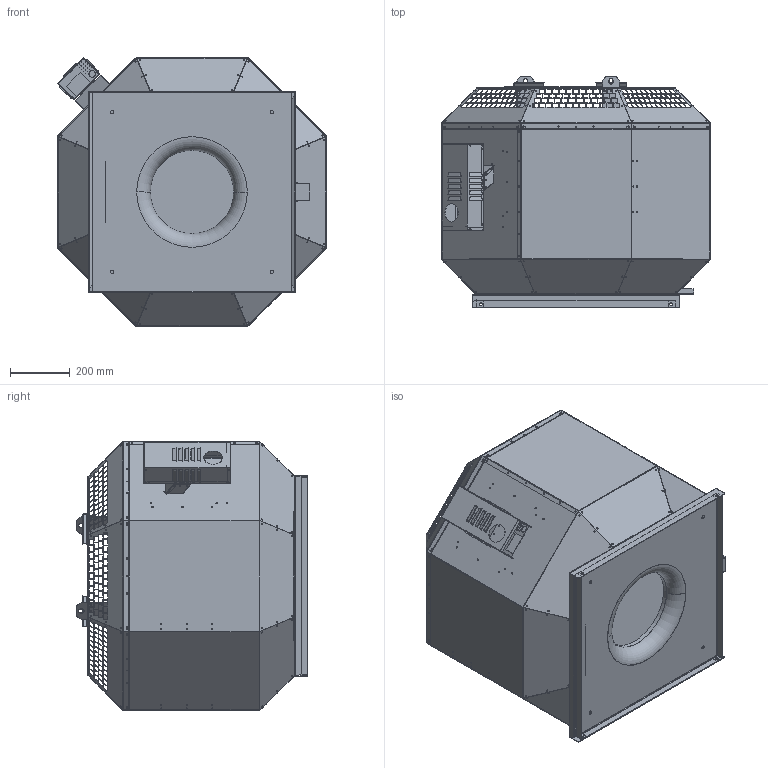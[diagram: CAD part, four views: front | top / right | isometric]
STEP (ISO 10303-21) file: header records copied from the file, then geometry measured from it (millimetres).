
FILE_DESCRIPTION (( 'STEP AP203' ), '1' );
FILE_NAME ('142187-00_DVN450D4F430_step.step', '2018-07-27T12:22:54', ( '' ), ( '' ), 'SwSTEP 2.0', 'SolidWorks 2017', '' );
FILE_SCHEMA (( 'CONFIG_CONTROL_DESIGN' ));
Products named in the file (1): 142187-00_DVN450D4F430_step
Bounding box: 902 x 776.32 x 902 mm (x, y, z)
Surface area: 6610690.3 mm2 (no closed solid volume)
Topology: 0 solids, 46 shells, 1621 faces, 10988 edges, 8609 vertices
Faces by surface type: plane 1173, cylinder 386, bspline 58, torus 4
Entity records: 119612 total; most frequent: CARTESIAN_POINT 35778, DIRECTION 15688, ORIENTED_EDGE 14247, EDGE_CURVE 10988, LINE 8730, VECTOR 8730, VERTEX_POINT 8609, EDGE_LOOP 3873
